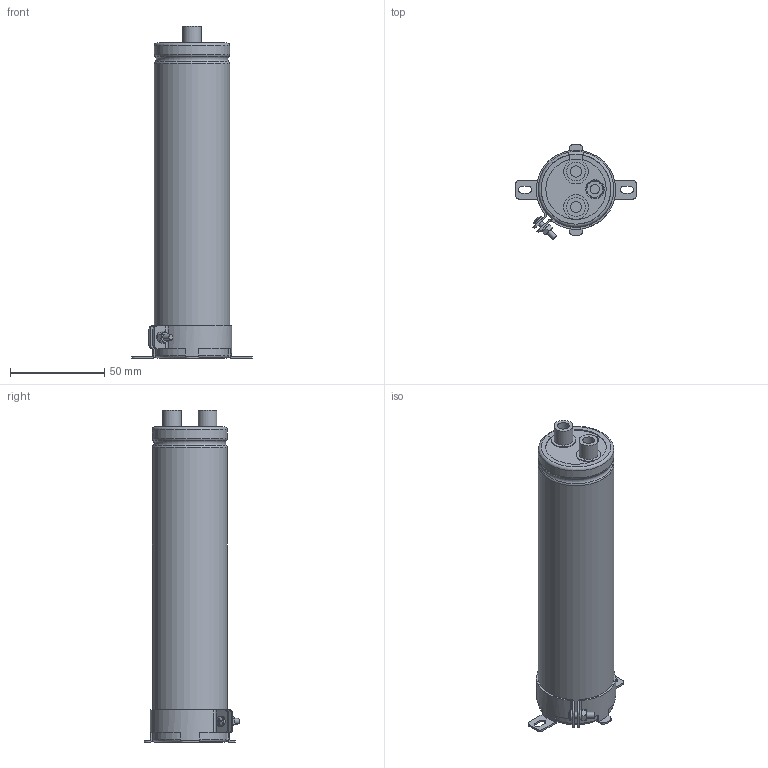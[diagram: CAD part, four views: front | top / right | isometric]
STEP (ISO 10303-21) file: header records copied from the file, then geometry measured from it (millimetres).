
FILE_DESCRIPTION(/* description */ (''),/* implementation_level */ '2;1');
FILE_NAME(/* name */ '40x167_Screw.stp',/* time_stamp */ '2017-09-14T21:40:15+09:00',/* author */ (''),/* organization */ (''),/* preprocessor_version */ 'ST-DEVELOPER v16',/* originating_system */ 'SIEMENS PLM Software NX 11.0',/* authorisation */ '');
FILE_SCHEMA (('AUTOMOTIVE_DESIGN { 1 0 10303 214 3 1 1 1 }'));
Length unit declared in the file: millimetre
Products named in the file (1): 40x167_Screw
Bounding box: 64 x 50.36 x 176 mm (x, y, z)
Volume: 211430.9 mm3; surface area: 72381.8 mm2
Topology: 9 solids, 9 shells, 256 faces, 636 edges, 409 vertices
Faces by surface type: plane 109, cylinder 65, torus 50, cone 31, sphere 1
Full cylindrical faces by diameter (mm): 3 x5, 5 x4, 5.5 x2, 6 x2, 10 x4, 13 x2, 38.8 x2
Entity records: 8385 total; most frequent: CARTESIAN_POINT 2097, DIRECTION 1286, ORIENTED_EDGE 1204, EDGE_CURVE 602, AXIS2_PLACEMENT_3D 541, VERTEX_POINT 404, EDGE_LOOP 310, CIRCLE 284
